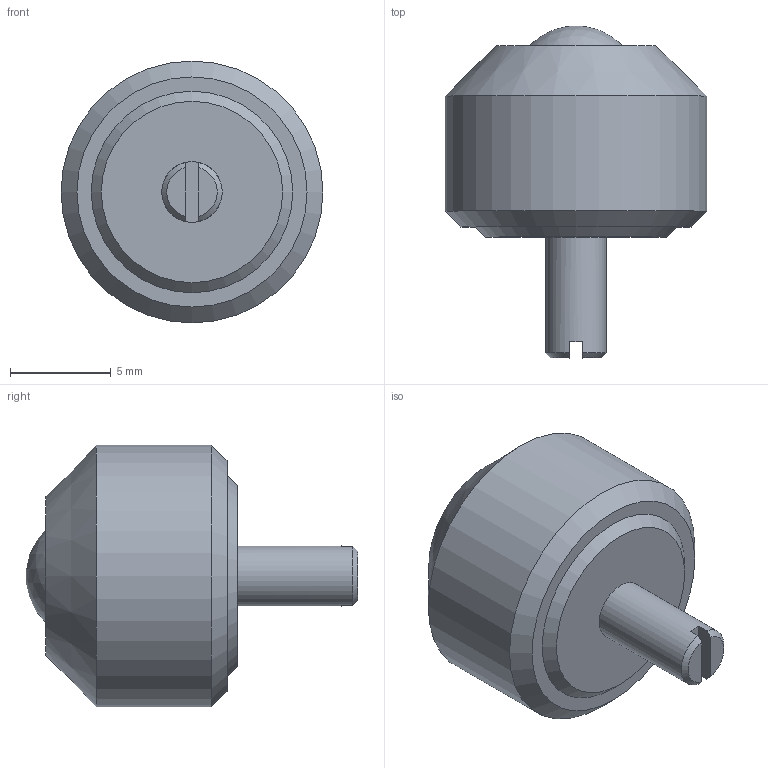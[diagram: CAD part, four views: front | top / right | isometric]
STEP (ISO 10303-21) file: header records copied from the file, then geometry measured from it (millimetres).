
FILE_DESCRIPTION(/* description */ (''),/* implementation_level */ '2;1');
FILE_NAME(/* name */ 'Z:\34-Tei\web 3Dデータ\16-IS-SNM型\IS-06SNM.stp',/* time_stamp */ '2015-01-09T15:34:27+09:00',/* author */ ('yamaki'),/* organization */ (''),/* preprocessor_version */ 'ST-DEVELOPER v15.6',/* originating_system */ 'Autodesk Inventor 2015',/* authorisation */ '');
FILE_SCHEMA (('AUTOMOTIVE_DESIGN { 1 0 10303 214 3 1 1 }'));
Length unit declared in the file: millimetre
Products named in the file (1): IS-06SNM
Bounding box: 13 x 16.48 x 13 mm (x, y, z)
Volume: 1154.4 mm3; surface area: 612.9 mm2
Topology: 1 solids, 1 shells, 16 faces, 32 edges, 21 vertices
Faces by surface type: plane 8, cone 5, cylinder 2, sphere 1
Full cylindrical faces by diameter (mm): 3 x1, 13 x1
Entity records: 408 total; most frequent: CARTESIAN_POINT 71, DIRECTION 70, ORIENTED_EDGE 52, AXIS2_PLACEMENT_3D 31, EDGE_CURVE 26, EDGE_LOOP 24, VERTEX_POINT 20, FACE_OUTER_BOUND 16
